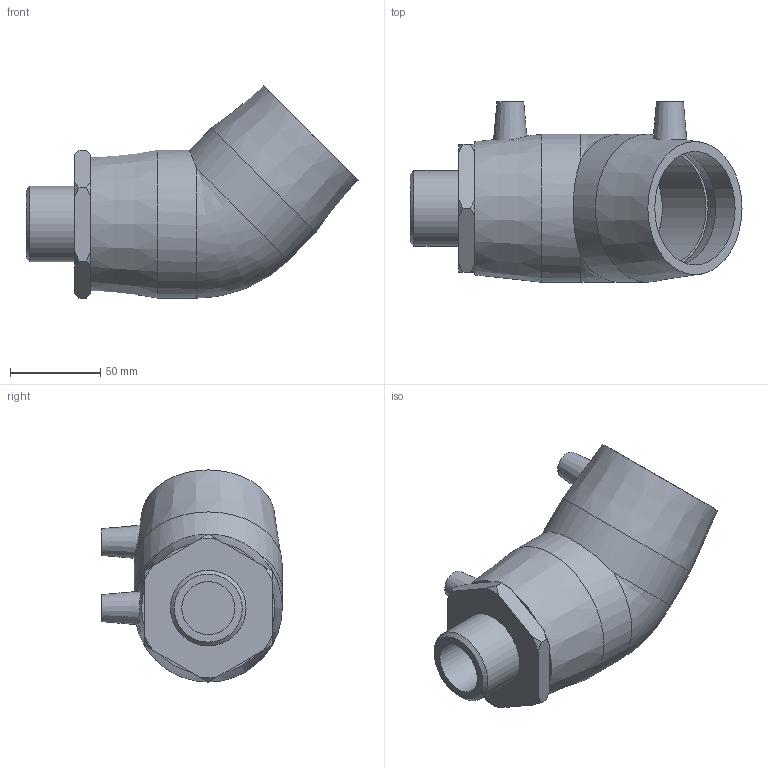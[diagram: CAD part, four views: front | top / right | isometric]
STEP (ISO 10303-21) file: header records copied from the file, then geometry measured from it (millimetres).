
FILE_DESCRIPTION(/* description */ ('PLASSON 45° ELBOW TRANSITION MALE 63-1.1/4"'),/* implementation_level */ '2;1');
FILE_NAME(/* name */ 'C:\Dropbox\KIMPROJECTS-Inventor\99-16-3568-Processing\ElectroFusion Fittings\02.02.20\492604\492604063013.ipt.stp',/* time_stamp */ '2020-02-02T12:20:06+02:00',/* author */ ('KIM'),/* organization */ (''),/* preprocessor_version */ 'ST-DEVELOPER v15.6',/* originating_system */ 'Autodesk Inventor 2015',/* authorisation */ '');
FILE_SCHEMA (('AUTOMOTIVE_DESIGN { 1 0 10303 214 3 1 1 }'));
Length unit declared in the file: millimetre
Products named in the file (1): 492604063013
Bounding box: 184 x 100 x 117.59 mm (x, y, z)
Volume: 477361.6 mm3; surface area: 85221.1 mm2
Topology: 1 solids, 2 shells, 59 faces, 133 edges, 88 vertices
Faces by surface type: plane 24, cone 19, cylinder 15, bspline 1
Full cylindrical faces by diameter (mm): 4 x2, 10 x2, 29.337 x1, 40.95 x2, 41.91 x1, 48 x1, 63 x4, 82 x2
Entity records: 1500 total; most frequent: CARTESIAN_POINT 369, DIRECTION 236, ORIENTED_EDGE 188, AXIS2_PLACEMENT_3D 109, EDGE_LOOP 97, EDGE_CURVE 94, VERTEX_POINT 75, FACE_OUTER_BOUND 59
